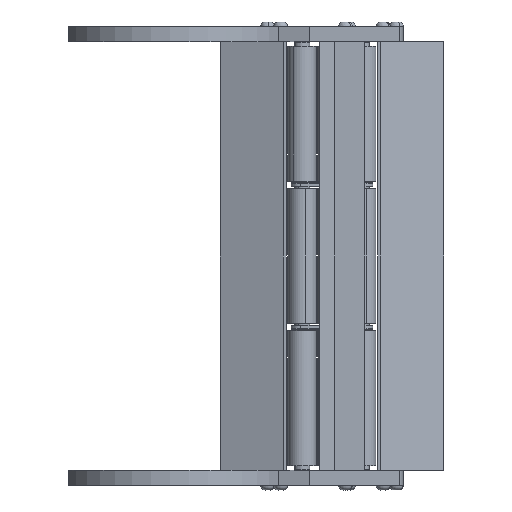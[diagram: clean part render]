
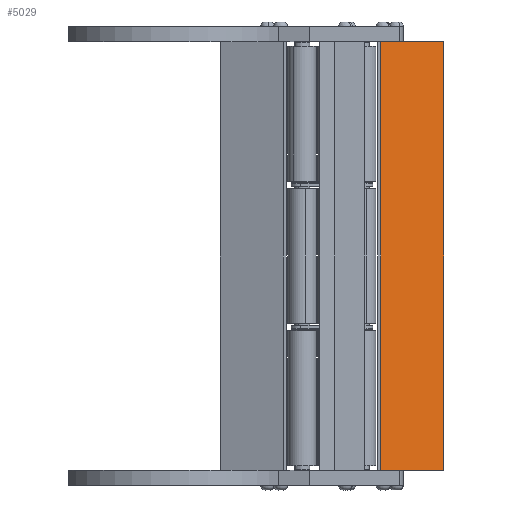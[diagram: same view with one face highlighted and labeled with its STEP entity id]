
A CAD part, front view. The second image highlights one B-rep face of the part: STEP entity #5029.
In plain terms, the highlighted planar face has unit normal (0.342, -0.94, 0).
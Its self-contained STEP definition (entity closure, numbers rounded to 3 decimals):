
#104 = EDGE_CURVE ( 'NONE', #9416, #18188, #1720, .T. ) ;
#1594 = CARTESIAN_POINT ( 'NONE',  ( 1.655, 0., 227. ) ) ;
#1720 = LINE ( 'NONE', #13553, #13135 ) ;
#1747 = DIRECTION ( 'NONE',  ( 0.94, 0.342, 0. ) ) ;
#2052 = EDGE_CURVE ( 'NONE', #18652, #18612, #14907, .T. ) ;
#2744 = DIRECTION ( 'NONE',  ( 0., 0., -1. ) ) ;
#3426 = LINE ( 'NONE', #15135, #17299 ) ;
#4030 = DIRECTION ( 'NONE',  ( -0.94, -0.342, 0. ) ) ;
#4184 = CARTESIAN_POINT ( 'NONE',  ( 35., 12.137, 227. ) ) ;
#4647 = AXIS2_PLACEMENT_3D ( 'NONE', #14303, #18866, #4030 ) ;
#5029 = ADVANCED_FACE ( 'NONE', ( #7327 ), #12972, .F. ) ;
#5940 = ORIENTED_EDGE ( 'NONE', *, *, #7165, .T. ) ;
#7165 = EDGE_CURVE ( 'NONE', #9416, #18652, #3426, .T. ) ;
#7327 = FACE_OUTER_BOUND ( 'NONE', #18393, .T. ) ;
#7906 = CARTESIAN_POINT ( 'NONE',  ( 35., 12.137, 0. ) ) ;
#8959 = CARTESIAN_POINT ( 'NONE',  ( 35., 12.137, 227. ) ) ;
#9292 = EDGE_CURVE ( 'NONE', #18188, #18612, #18731, .T. ) ;
#9416 = VERTEX_POINT ( 'NONE', #1594 ) ;
#10331 = VECTOR ( 'NONE', #2744, 1000. ) ;
#11594 = VECTOR ( 'NONE', #1747, 1000. ) ;
#11910 = DIRECTION ( 'NONE',  ( 0.94, 0.342, 0. ) ) ;
#12079 = DIRECTION ( 'NONE',  ( 0., 0., -1. ) ) ;
#12972 = PLANE ( 'NONE',  #4647 ) ;
#13135 = VECTOR ( 'NONE', #11910, 1000. ) ;
#13553 = CARTESIAN_POINT ( 'NONE',  ( 1.655, 0., 227. ) ) ;
#13870 = ORIENTED_EDGE ( 'NONE', *, *, #9292, .F. ) ;
#14303 = CARTESIAN_POINT ( 'NONE',  ( 35., 12.137, 227. ) ) ;
#14907 = LINE ( 'NONE', #7906, #11594 ) ;
#15135 = CARTESIAN_POINT ( 'NONE',  ( 1.655, 0., 227. ) ) ;
#15316 = CARTESIAN_POINT ( 'NONE',  ( 1.655, 0., 0. ) ) ;
#16088 = ORIENTED_EDGE ( 'NONE', *, *, #2052, .T. ) ;
#17299 = VECTOR ( 'NONE', #12079, 1000. ) ;
#17566 = ORIENTED_EDGE ( 'NONE', *, *, #104, .F. ) ;
#18140 = CARTESIAN_POINT ( 'NONE',  ( 35., 12.137, 0. ) ) ;
#18188 = VERTEX_POINT ( 'NONE', #8959 ) ;
#18393 = EDGE_LOOP ( 'NONE', ( #16088, #13870, #17566, #5940 ) ) ;
#18612 = VERTEX_POINT ( 'NONE', #18140 ) ;
#18652 = VERTEX_POINT ( 'NONE', #15316 ) ;
#18731 = LINE ( 'NONE', #4184, #10331 ) ;
#18866 = DIRECTION ( 'NONE',  ( -0.342, 0.94, 0. ) ) ;
